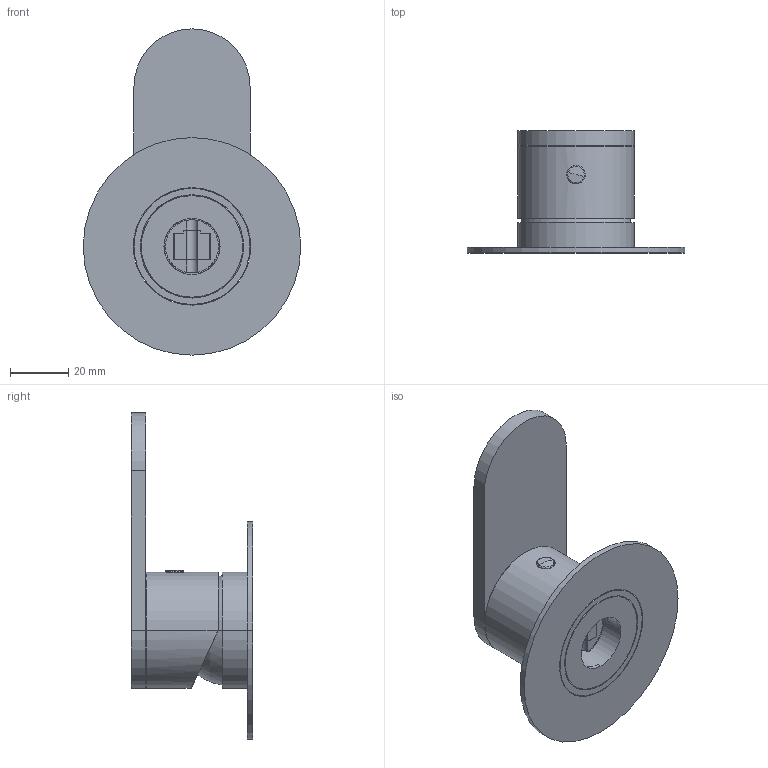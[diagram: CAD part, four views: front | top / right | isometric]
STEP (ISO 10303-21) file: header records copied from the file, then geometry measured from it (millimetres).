
FILE_DESCRIPTION((''),'2;1');
FILE_NAME('7941721_SW0001','2026-10-05T15:10:20',('carloff'),(''),'CREO PARAMETRIC BY PTC INC, 2025443','CREO PARAMETRIC BY PTC INC, 2025443','');
FILE_SCHEMA(('CONFIG_CONTROL_DESIGN'));
Length unit declared in the file: millimetre
Products named in the file (1): 7941721_SW0001
Bounding box: 75 x 42 x 112.5 mm (x, y, z)
Volume: 55049.5 mm3; surface area: 32203.8 mm2
Topology: 3 solids, 3 shells, 471 faces, 1352 edges, 891 vertices
Faces by surface type: plane 193, cylinder 166, torus 56, cone 37, bspline 11, sphere 8
Entity records: 21584 total; most frequent: CARTESIAN_POINT 9121, ORIENTED_EDGE 2696, DIRECTION 2566, EDGE_CURVE 1348, AXIS2_PLACEMENT_3D 936, VERTEX_POINT 891, VECTOR 694, LINE 694
